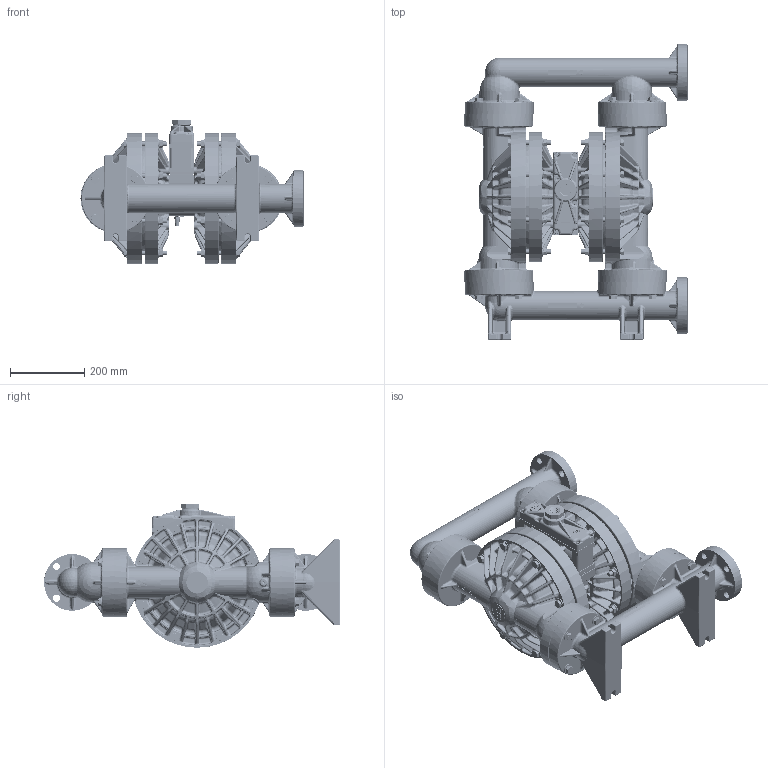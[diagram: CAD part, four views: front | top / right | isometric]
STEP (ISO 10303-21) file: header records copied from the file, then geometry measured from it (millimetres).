
FILE_DESCRIPTION (( 'STEP AP203' ), '1' );
FILE_NAME ('PS800_ADV_PVDF_ANSI.STEP', '2022-06-10T10:21:25', ( '' ), ( '' ), 'SwSTEP 2.0', 'SolidWorks 2019', '' );
FILE_SCHEMA (( 'CONFIG_CONTROL_DESIGN' ));
Products named in the file (1): PS800_ADV_PVDF_ANSI
Bounding box: 599.63 x 795.78 x 387.42 mm (x, y, z)
Volume: 40169548.3 mm3; surface area: 2482772.3 mm2
Topology: 1 solids, 1 shells, 16418 faces, 39068 edges, 23064 vertices
Faces by surface type: bspline 5905, plane 4808, cylinder 1842, cone 1404, torus 1376, sphere 1083
Entity records: 906698 total; most frequent: CARTESIAN_POINT 572473, ORIENTED_EDGE 77920, DIRECTION 58533, EDGE_CURVE 38960, VERTEX_POINT 23008, AXIS2_PLACEMENT_3D 22715, EDGE_LOOP 16964, FACE_OUTER_BOUND 16413
